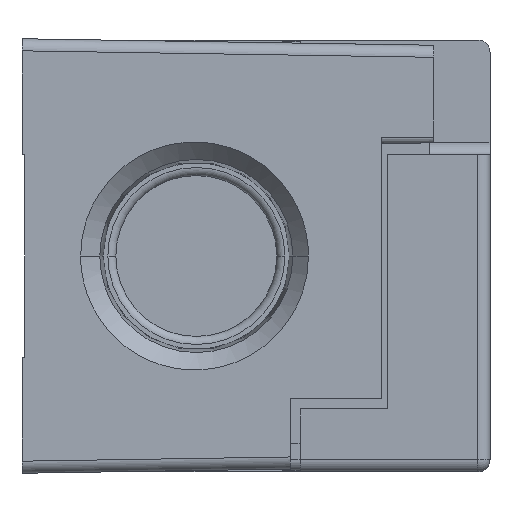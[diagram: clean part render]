
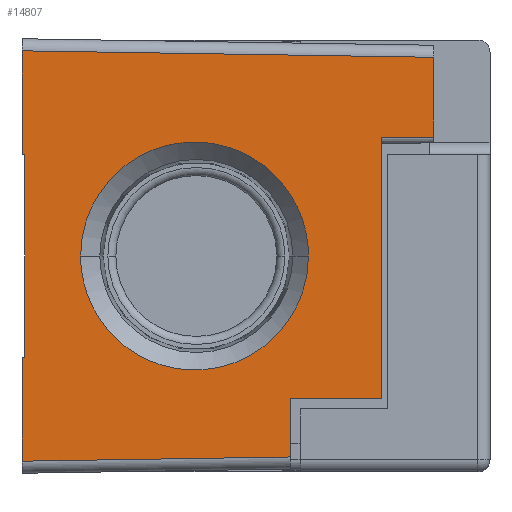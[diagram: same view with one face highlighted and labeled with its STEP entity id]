
A CAD part, front view. The second image highlights one B-rep face of the part: STEP entity #14807.
In plain terms, the highlighted planar face has unit normal (0.016, -1, 0).
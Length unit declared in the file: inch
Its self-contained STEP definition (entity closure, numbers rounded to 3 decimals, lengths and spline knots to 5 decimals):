
#2395=CARTESIAN_POINT('',(0.161,-3.18829,-0.7493));
#2403=DIRECTION('',(0.,0.,1.));
#2404=VECTOR('',#2403,0.2193);
#2405=CARTESIAN_POINT('',(0.161,-3.18829,-0.7493));
#2406=LINE('',#2405,#2404);
#2872=DIRECTION('',(0.,0.,1.));
#2873=VECTOR('',#2872,0.973);
#2874=CARTESIAN_POINT('',(0.501,-3.18295,-0.53));
#2875=LINE('',#2874,#2873);
#2880=DIRECTION('',(1.,0.016,0.));
#2881=VECTOR('',#2880,0.34004);
#2882=CARTESIAN_POINT('',(0.161,-3.18829,-0.53));
#2883=LINE('',#2882,#2881);
#2884=DIRECTION('',(-1.,-0.016,0.016));
#2885=VECTOR('',#2884,1.53538);
#2886=CARTESIAN_POINT('',(0.696,-3.17989,0.74089));
#2887=LINE('',#2886,#2885);
#2888=DIRECTION('',(1.,0.016,0.016));
#2889=VECTOR('',#2888,1.00025);
#2890=CARTESIAN_POINT('',(-0.839,-3.204,-0.76501));
#2891=LINE('',#2890,#2889);
#2892=DIRECTION('',(1.,0.016,0.));
#2893=VECTOR('',#2892,0.01);
#2894=CARTESIAN_POINT('',(-0.839,-3.204,-0.378));
#2895=LINE('',#2894,#2893);
#2896=DIRECTION('',(0.,0.,1.));
#2897=VECTOR('',#2896,0.756);
#2898=CARTESIAN_POINT('',(-0.829,-3.20384,-0.378));
#2899=LINE('',#2898,#2897);
#2900=DIRECTION('',(1.,0.016,0.));
#2901=VECTOR('',#2900,0.01);
#2902=CARTESIAN_POINT('',(-0.839,-3.204,0.378));
#2903=LINE('',#2902,#2901);
#2904=CARTESIAN_POINT('',(0.22922,-3.18722,0.));
#2905=CARTESIAN_POINT('',(0.22922,-3.18722,
-0.05007));
#2906=CARTESIAN_POINT('',(0.21107,-3.1875,
-0.15828));
#2907=CARTESIAN_POINT('',(0.12996,-3.18878,
-0.28405));
#2908=CARTESIAN_POINT('',(0.03817,-3.19022,
-0.35827));
#2909=CARTESIAN_POINT('',(-0.03872,-3.19143,
-0.39785));
#2910=CARTESIAN_POINT('',(-0.11894,-3.19269,
-0.42039));
#2911=CARTESIAN_POINT('',(-0.19567,-3.19389,
-0.42707));
#2912=CARTESIAN_POINT('',(-0.27241,-3.1951,
-0.42039));
#2913=CARTESIAN_POINT('',(-0.35263,-3.19636,
-0.39785));
#2914=CARTESIAN_POINT('',(-0.42952,-3.19757,
-0.35827));
#2915=CARTESIAN_POINT('',(-0.52131,-3.19901,
-0.28405));
#2916=CARTESIAN_POINT('',(-0.60242,-3.20028,
-0.15828));
#2917=CARTESIAN_POINT('',(-0.62057,-3.20057,
-0.05007));
#2918=CARTESIAN_POINT('',(-0.62057,-3.20057,0.));
#2920=CARTESIAN_POINT('',(-0.62057,-3.20057,0.));
#2921=CARTESIAN_POINT('',(-0.62057,-3.20057,
0.05007));
#2922=CARTESIAN_POINT('',(-0.60242,-3.20028,
0.15828));
#2923=CARTESIAN_POINT('',(-0.52131,-3.19901,
0.28405));
#2924=CARTESIAN_POINT('',(-0.42952,-3.19757,
0.35827));
#2925=CARTESIAN_POINT('',(-0.35263,-3.19636,
0.39785));
#2926=CARTESIAN_POINT('',(-0.27241,-3.1951,
0.42039));
#2927=CARTESIAN_POINT('',(-0.19567,-3.19389,
0.42707));
#2928=CARTESIAN_POINT('',(-0.11894,-3.19269,
0.42039));
#2929=CARTESIAN_POINT('',(-0.03872,-3.19143,
0.39785));
#2930=CARTESIAN_POINT('',(0.03817,-3.19022,
0.35827));
#2931=CARTESIAN_POINT('',(0.12996,-3.18878,
0.28405));
#2932=CARTESIAN_POINT('',(0.21107,-3.1875,
0.15828));
#2933=CARTESIAN_POINT('',(0.22922,-3.18722,
0.05007));
#2934=CARTESIAN_POINT('',(0.22922,-3.18722,0.));
#2936=CARTESIAN_POINT('',(-0.839,-3.204,0.76501));
#2944=DIRECTION('',(0.,0.,1.));
#2945=VECTOR('',#2944,0.38701);
#2946=CARTESIAN_POINT('',(-0.839,-3.204,0.378));
#2947=LINE('',#2946,#2945);
#3050=CARTESIAN_POINT('',(0.696,-3.17989,0.74089));
#3079=DIRECTION('',(0.,0.,-1.));
#3080=VECTOR('',#3079,0.29789);
#3081=CARTESIAN_POINT('',(0.696,-3.17989,0.74089));
#3082=LINE('',#3081,#3080);
#3110=DIRECTION('',(1.,0.016,0.));
#3111=VECTOR('',#3110,0.19502);
#3112=CARTESIAN_POINT('',(0.501,-3.18295,0.443));
#3113=LINE('',#3112,#3111);
#3147=CARTESIAN_POINT('',(-0.839,-3.204,-0.76501));
#3166=DIRECTION('',(0.,0.,1.));
#3167=VECTOR('',#3166,0.38701);
#3168=CARTESIAN_POINT('',(-0.839,-3.204,-0.76501));
#3169=LINE('',#3168,#3167);
#10444=CARTESIAN_POINT('',(0.22922,-3.18722,0.));
#10445=VERTEX_POINT('',#10444);
#10446=CARTESIAN_POINT('',(-0.62057,-3.20057,0.));
#10447=VERTEX_POINT('',#10446);
#10449=CARTESIAN_POINT('',(0.501,-3.18295,0.443));
#10451=VERTEX_POINT('',#10449);
#10458=CARTESIAN_POINT('',(0.696,-3.17989,0.443));
#10459=VERTEX_POINT('',#10458);
#10460=CARTESIAN_POINT('',(0.501,-3.18295,-0.53));
#10461=VERTEX_POINT('',#10460);
#10468=CARTESIAN_POINT('',(0.161,-3.18829,-0.53));
#10469=VERTEX_POINT('',#10468);
#10472=VERTEX_POINT('',#2936);
#10476=VERTEX_POINT('',#3050);
#10477=VERTEX_POINT('',#2395);
#10481=VERTEX_POINT('',#3147);
#10534=CARTESIAN_POINT('',(-0.839,-3.204,-0.378));
#10535=VERTEX_POINT('',#10534);
#10536=CARTESIAN_POINT('',(-0.839,-3.204,0.378));
#10538=VERTEX_POINT('',#10536);
#10556=CARTESIAN_POINT('',(-0.829,-3.20384,-0.378));
#10557=CARTESIAN_POINT('',(-0.829,-3.20384,0.378));
#10558=VERTEX_POINT('',#10556);
#10559=VERTEX_POINT('',#10557);
#14774=CARTESIAN_POINT('',(-0.839,-3.204,-1.85443));
#14775=DIRECTION('',(0.016,-1.,0.));
#14776=DIRECTION('',(0.,0.,1.));
#14777=AXIS2_PLACEMENT_3D('',#14774,#14775,#14776);
#14778=PLANE('',#14777);
#14780=ORIENTED_EDGE('',*,*,#14779,.F.);
#14782=ORIENTED_EDGE('',*,*,#14781,.T.);
#14784=ORIENTED_EDGE('',*,*,#14783,.F.);
#14785=ORIENTED_EDGE('',*,*,#14753,.F.);
#14786=ORIENTED_EDGE('',*,*,#14768,.F.);
#14787=ORIENTED_EDGE('',*,*,#14137,.F.);
#14789=ORIENTED_EDGE('',*,*,#14788,.F.);
#14791=ORIENTED_EDGE('',*,*,#14790,.T.);
#14793=ORIENTED_EDGE('',*,*,#14792,.T.);
#14794=ORIENTED_EDGE('',*,*,#14527,.T.);
#14796=ORIENTED_EDGE('',*,*,#14795,.F.);
#14798=ORIENTED_EDGE('',*,*,#14797,.T.);
#14799=EDGE_LOOP('',(#14780,#14782,#14784,#14785,#14786,#14787,#14789,#14791,
#14793,#14794,#14796,#14798));
#14800=FACE_OUTER_BOUND('',#14799,.F.);
#14802=ORIENTED_EDGE('',*,*,#14801,.F.);
#14804=ORIENTED_EDGE('',*,*,#14803,.F.);
#14805=EDGE_LOOP('',(#14802,#14804));
#14806=FACE_BOUND('',#14805,.F.);
#14807=ADVANCED_FACE('',(#14800,#14806),#14778,.T.);
#2919=B_SPLINE_CURVE_WITH_KNOTS('',3,(#2904,#2905,#2906,#2907,#2908,#2909,#2910,
#2911,#2912,#2913,#2914,#2915,#2916,#2917,#2918),.UNSPECIFIED.,.F.,.F.,(4,1,1,1,
1,1,1,1,1,1,1,1,4),(0.,0.125,0.25,0.3125,0.375,0.4375,0.5,
0.5625,0.625,0.6875,0.75,0.875,1.),.UNSPECIFIED.);
#2935=B_SPLINE_CURVE_WITH_KNOTS('',3,(#2920,#2921,#2922,#2923,#2924,#2925,#2926,
#2927,#2928,#2929,#2930,#2931,#2932,#2933,#2934),.UNSPECIFIED.,.F.,.F.,(4,1,1,1,
1,1,1,1,1,1,1,1,4),(0.,0.125,0.25,0.3125,0.375,0.4375,0.5,
0.5625,0.625,0.6875,0.75,0.875,1.),.UNSPECIFIED.);
#14137=EDGE_CURVE('',#10477,#10469,#2406,.T.);
#14527=EDGE_CURVE('',#10558,#10559,#2899,.T.);
#14753=EDGE_CURVE('',#10461,#10451,#2875,.T.);
#14768=EDGE_CURVE('',#10469,#10461,#2883,.T.);
#14779=EDGE_CURVE('',#10476,#10472,#2887,.T.);
#14781=EDGE_CURVE('',#10476,#10459,#3082,.T.);
#14783=EDGE_CURVE('',#10451,#10459,#3113,.T.);
#14788=EDGE_CURVE('',#10481,#10477,#2891,.T.);
#14790=EDGE_CURVE('',#10481,#10535,#3169,.T.);
#14792=EDGE_CURVE('',#10535,#10558,#2895,.T.);
#14795=EDGE_CURVE('',#10538,#10559,#2903,.T.);
#14797=EDGE_CURVE('',#10538,#10472,#2947,.T.);
#14801=EDGE_CURVE('',#10445,#10447,#2919,.T.);
#14803=EDGE_CURVE('',#10447,#10445,#2935,.T.);
